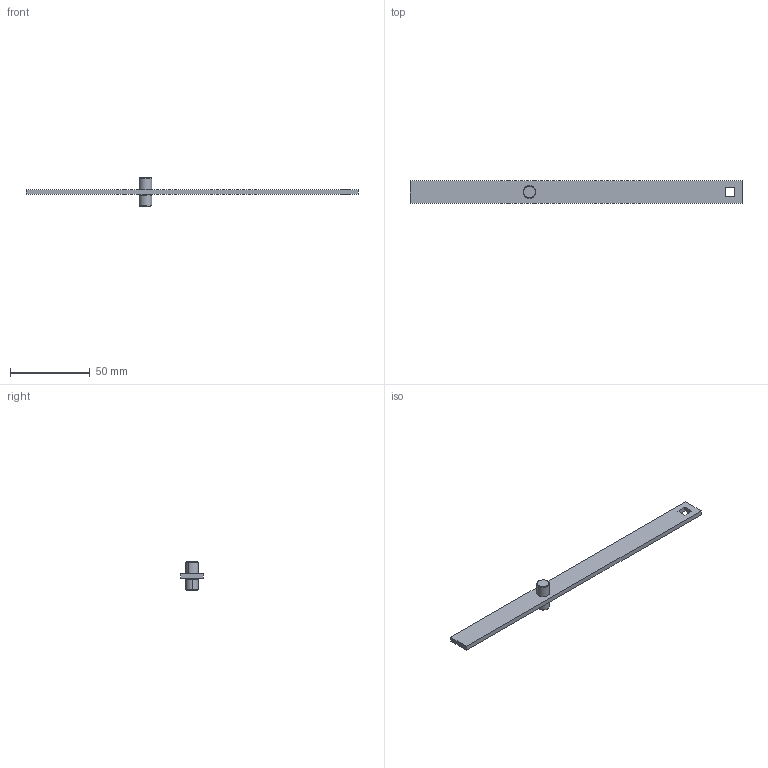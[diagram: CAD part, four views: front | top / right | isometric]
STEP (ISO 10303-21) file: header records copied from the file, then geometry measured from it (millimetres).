
FILE_DESCRIPTION (( 'STEP AP214' ), '1' );
FILE_NAME ('PK18-210.STEP', '2016-08-18T09:50:11', ( 'RST-Dolba' ), ( '' ), 'SwSTEP 2.0', 'SolidWorks 2015', '' );
FILE_SCHEMA (( 'AUTOMOTIVE_DESIGN' ));
Length unit declared in the file: millimetre
Products named in the file (4): 1C.PD.B.Z.X.Y.01_PK18-210; PK18-210; 1C.PDB.02.02.00_A; 1C.PDB.02.01.00_A
Assembly tree (3 placements, depth 2):
  PK18-210
    1C.PD.B.Z.X.Y.01_PK18-210
    1C.PDB.02.01.00_A
    1C.PDB.02.02.00_A
Bounding box: 208.5 x 14 x 18.1 mm (x, y, z)
Volume: 9391.5 mm3; surface area: 7956.7 mm2
Topology: 3 solids, 3 shells, 42 faces, 90 edges, 55 vertices
Faces by surface type: plane 16, cylinder 14, cone 12
Entity records: 1288 total; most frequent: DIRECTION 222, CARTESIAN_POINT 191, ORIENTED_EDGE 176, EDGE_CURVE 88, AXIS2_PLACEMENT_3D 86, VERTEX_POINT 55, EDGE_LOOP 51, VECTOR 50
